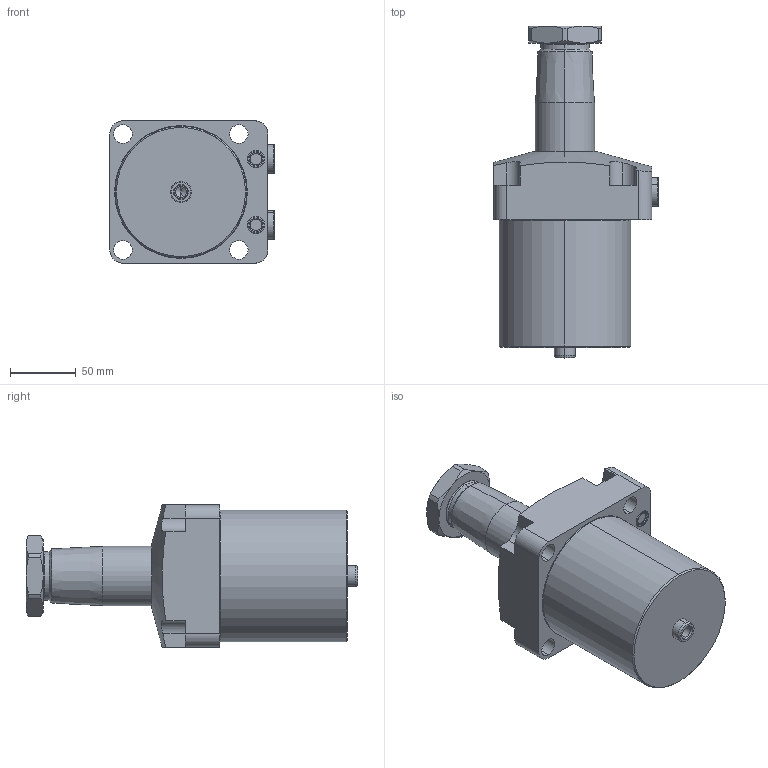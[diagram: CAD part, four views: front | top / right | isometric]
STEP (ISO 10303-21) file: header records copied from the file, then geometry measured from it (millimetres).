
FILE_DESCRIPTION(/* description */ (''),/* implementation_level */ '2;1');
FILE_NAME(/* name */ 'TRC25-RD.stp',/* time_stamp */ '2025-01-04T09:10:38+08:00',/* author */ (''),/* organization */ (''),/* preprocessor_version */ 'ST-DEVELOPER v16.7',/* originating_system */ 'SIEMENS PLM Software NX 12.0',/* authorisation */ '');
FILE_SCHEMA (('AUTOMOTIVE_DESIGN { 1 0 10303 214 3 1 1 1 }'));
Length unit declared in the file: millimetre
Products named in the file (5): TRC25-RD-01; TRC25-RD-02; TRC25-RD-03; TRC25-RD-04; TRC25-RD_stp
Assembly tree (5 placements, depth 2):
  TRC25-RD_stp
    TRC25-RD-04  x2
    TRC25-RD-03
    TRC25-RD-02
    TRC25-RD-01
Bounding box: 124.8 x 252 x 108 mm (x, y, z)
Volume: 1419789 mm3; surface area: 127244.8 mm2
Topology: 5 solids, 7 shells, 219 faces, 493 edges, 301 vertices
Faces by surface type: cylinder 81, plane 69, cone 46, torus 22, sphere 1
Entity records: 5768 total; most frequent: CARTESIAN_POINT 1141, DIRECTION 1008, ORIENTED_EDGE 888, EDGE_CURVE 444, AXIS2_PLACEMENT_3D 414, VERTEX_POINT 273, EDGE_LOOP 227, CIRCLE 211
